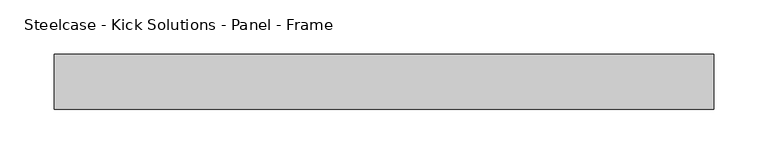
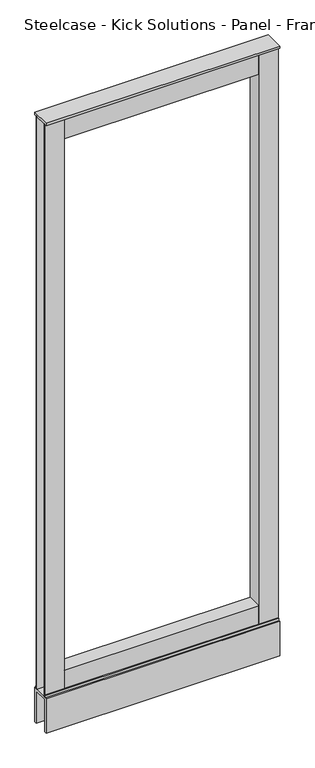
"""IFC4 building model written with IfcOpenShell, lengths in millimetres: furniture geometry, Steelcase - Kick Solutions - Panel - Frame : 66H x 24W."""

from ifc_helpers import new_model, si_unit, frame, origin, place, context, project, spatial, polyline, outline, extrude, source, transform, mapped, element, save


def steelcase_kick_solutions_panel_frame_b8b76f50(model_context):
    return source(origin(), model_context, "Body", "SweptSolid", [
        extrude(outline(polyline([(50.8006646, 6.3506854), (50.8006646, -31.7493123), (0.0, -31.7493123), (0.0, -29.2093123), (48.2606646, -29.2093123), (48.2606646, 3.8106854), (0.0, 3.8106854), (0.0, 6.3506854), (50.8006646, 6.3506854)])), frame((0.0, 0.0, 95.25), z_axis=(0.0, 0.0, 1.0), x_axis=(1.0, 0.0, 0.0)), (0.0, 0.0, 1.0), 1581.15),
        extrude(outline(polyline([(558.8006661, 6.3506854), (609.6, 6.3506854), (609.6, 3.8106854), (561.3393354, 3.8106854), (561.3393354, -29.2093123), (609.6, -29.2093123), (609.6, -31.7493123), (558.8006661, -31.7493123), (558.8006661, 6.3506854)])), frame((0.0, 0.0, 95.25), z_axis=(0.0, 0.0, 1.0), x_axis=(1.0, 0.0, 0.0)), (0.0, 0.0, 1.0), 1581.15),
        extrude(outline(polyline([(6.3506854, 101.600003), (9.5256855, 101.600003), (9.5256855, 95.25), (8.409661, 95.25), (8.409661, 100.2902081), (6.3506854, 100.2902081), (6.3506854, 101.600003)])), frame((0.0, 0.0, 0.0), z_axis=(1.0, 0.0, 0.0), x_axis=(0.0, 1.0, 0.0)), (0.0, 0.0, 1.0), 609.6),
        extrude(outline(polyline([(-34.9243138, 101.600003), (-31.7493123, 101.600003), (-31.7493123, 100.2902081), (-33.8479845, 100.2902081), (-33.8479845, 95.25), (-34.9243138, 95.25), (-34.9243138, 101.600003)])), frame((0.0, 0.0, 0.0), z_axis=(1.0, 0.0, 0.0), x_axis=(0.0, 1.0, 0.0)), (0.0, 0.0, 1.0), 609.6),
        extrude(outline(polyline([(558.8006661, -31.7493123), (50.8006646, -31.7493123), (50.8006646, 6.3506854), (558.8006661, 6.3506854), (558.8006661, -31.7493123)])), frame((0.0, 0.0, 1619.2500242), z_axis=(0.0, 0.0, 1.0), x_axis=(1.0, 0.0, 0.0)), (0.0, 0.0, 1.0), 57.1499758),
        extrude(outline(polyline([(558.8006661, -31.7493123), (50.8006646, -31.7493123), (50.8006646, 6.3506854), (558.8006661, 6.3506854), (558.8006661, -31.7493123)])), frame((0.0, 0.0, 95.25), z_axis=(0.0, 0.0, 1.0), x_axis=(1.0, 0.0, 0.0)), (0.0, 0.0, 1.0), 57.15),
        extrude(outline(polyline([(609.6, 12.7000004), (609.6, -38.1000011), (0.0, -38.1000011), (0.0, 12.7000004), (609.6, 12.7000004)])), frame((0.0, 0.0, 1676.4), z_axis=(0.0, 0.0, 1.0), x_axis=(1.0, 0.0, 0.0)), (0.0, 0.0, 1.0), 6.35),
        extrude(outline(polyline([(-38.1000011, 95.25), (12.7000004, 95.25), (12.7000004, 0.0), (6.3506854, 0.0), (6.3506854, 88.9), (-31.7493123, 88.9), (-31.7493123, 0.0), (-38.1000011, 0.0), (-38.1000011, 95.25)])), frame((0.0, 0.0, 0.0), z_axis=(1.0, 0.0, 0.0), x_axis=(0.0, 1.0, 0.0)), (0.0, 0.0, 1.0), 609.6),
    ])


if __name__ == "__main__":
    model = new_model("IFC4")
    model_context = context("Model", 3, world=origin())
    ifc_project = project(units=[si_unit("LENGTHUNIT", "METRE", prefix="MILLI")], contexts=[model_context])
    site = spatial("IfcSite", under=ifc_project)
    building = spatial("IfcBuilding", under=site)
    placement = place(None, origin())
    steelcase_kick_solutions_panel_frame_shape = steelcase_kick_solutions_panel_frame_b8b76f50(model_context)
    element("IfcFurniture", 1, ObjectType="Steelcase - Kick Solutions - Panel - Frame : 66H x 24W", at=placement, inside=building, context=model_context, shape_type="MappedRepresentation", body=[
        mapped(steelcase_kick_solutions_panel_frame_shape, transform((0.0, 0.0, 0.0), x_axis=(1.0, 0.0, 0.0), y_axis=(0.0, 1.0, 0.0), z_axis=(0.0, 0.0, 1.0))),
    ])
    save(model, "model.ifc")
